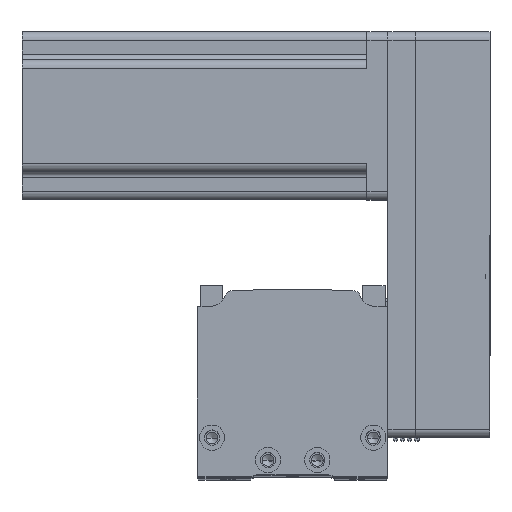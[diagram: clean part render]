
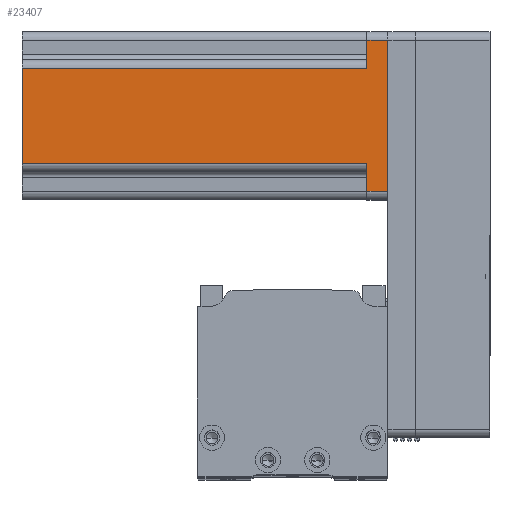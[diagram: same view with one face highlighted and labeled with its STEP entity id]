
A CAD part, top view. The second image highlights one B-rep face of the part: STEP entity #23407.
In plain terms, the highlighted planar face has unit normal (0, 0, 1) as drawn and (0, -1, 0) by its records, which use the part's own axes.
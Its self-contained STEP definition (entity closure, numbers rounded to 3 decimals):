
#305 = LINE ( 'NONE', #9423, #26192 ) ;
#383 = ORIENTED_EDGE ( 'NONE', *, *, #25056, .T. ) ;
#2378 = VERTEX_POINT ( 'NONE', #4097 ) ;
#2398 = LINE ( 'NONE', #35038, #18643 ) ;
#2446 = CARTESIAN_POINT ( 'NONE',  ( 17., -30., 130.7 ) ) ;
#2460 = DIRECTION ( 'NONE',  ( 0., 0., -1. ) ) ;
#2981 = CARTESIAN_POINT ( 'NONE',  ( 17., -30., 7.5 ) ) ;
#4097 = CARTESIAN_POINT ( 'NONE',  ( 27., -30., 7.5 ) ) ;
#4496 = ORIENTED_EDGE ( 'NONE', *, *, #18347, .F. ) ;
#4709 = CARTESIAN_POINT ( 'NONE',  ( -17., -30., 130.7 ) ) ;
#4828 = EDGE_CURVE ( 'NONE', #17021, #24224, #17422, .T. ) ;
#6178 = LINE ( 'NONE', #16313, #13749 ) ;
#8013 = VECTOR ( 'NONE', #37402, 1000. ) ;
#9201 = ORIENTED_EDGE ( 'NONE', *, *, #15274, .T. ) ;
#9423 = CARTESIAN_POINT ( 'NONE',  ( 27., -30., 130.7 ) ) ;
#9713 = AXIS2_PLACEMENT_3D ( 'NONE', #10328, #33063, #13560 ) ;
#10328 = CARTESIAN_POINT ( 'NONE',  ( 30., -30., 130.7 ) ) ;
#11030 = ORIENTED_EDGE ( 'NONE', *, *, #4828, .T. ) ;
#11082 = VECTOR ( 'NONE', #33494, 1000. ) ;
#13443 = ORIENTED_EDGE ( 'NONE', *, *, #21573, .T. ) ;
#13560 = DIRECTION ( 'NONE',  ( -1., 0., 0. ) ) ;
#13749 = VECTOR ( 'NONE', #22897, 1000. ) ;
#14016 = CARTESIAN_POINT ( 'NONE',  ( -20., -30., 7.5 ) ) ;
#15274 = EDGE_CURVE ( 'NONE', #26957, #2378, #305, .T. ) ;
#15473 = DIRECTION ( 'NONE',  ( 0., 0., 1. ) ) ;
#16313 = CARTESIAN_POINT ( 'NONE',  ( 30., -30., 130.7 ) ) ;
#16453 = CARTESIAN_POINT ( 'NONE',  ( -17., -30., 7.5 ) ) ;
#17021 = VERTEX_POINT ( 'NONE', #2981 ) ;
#17422 = LINE ( 'NONE', #2446, #32722 ) ;
#18347 = EDGE_CURVE ( 'NONE', #30517, #24224, #6178, .T. ) ;
#18643 = VECTOR ( 'NONE', #2460, 1000. ) ;
#18755 = CARTESIAN_POINT ( 'NONE',  ( -17., -30., 130.7 ) ) ;
#21573 = EDGE_CURVE ( 'NONE', #30517, #39644, #27723, .T. ) ;
#22897 = DIRECTION ( 'NONE',  ( 1., 0., 0. ) ) ;
#23145 = VERTEX_POINT ( 'NONE', #24973 ) ;
#23407 = ADVANCED_FACE ( 'NONE', ( #24587 ), #29661, .F. ) ;
#24224 = VERTEX_POINT ( 'NONE', #36165 ) ;
#24587 = FACE_OUTER_BOUND ( 'NONE', #25153, .T. ) ;
#24973 = CARTESIAN_POINT ( 'NONE',  ( -27., -30., 0. ) ) ;
#25056 = EDGE_CURVE ( 'NONE', #23145, #26957, #41596, .T. ) ;
#25153 = EDGE_LOOP ( 'NONE', ( #4496, #13443, #26700, #26052, #383, #9201, #35395, #11030 ) ) ;
#25195 = DIRECTION ( 'NONE',  ( 0., 0., -1. ) ) ;
#26052 = ORIENTED_EDGE ( 'NONE', *, *, #29195, .T. ) ;
#26192 = VECTOR ( 'NONE', #41850, 1000. ) ;
#26700 = ORIENTED_EDGE ( 'NONE', *, *, #32816, .F. ) ;
#26957 = VERTEX_POINT ( 'NONE', #28158 ) ;
#27284 = VERTEX_POINT ( 'NONE', #36534 ) ;
#27723 = LINE ( 'NONE', #18755, #37459 ) ;
#28158 = CARTESIAN_POINT ( 'NONE',  ( 27., -30., 0. ) ) ;
#28890 = VECTOR ( 'NONE', #33532, 1000. ) ;
#28953 = EDGE_CURVE ( 'NONE', #2378, #17021, #37049, .T. ) ;
#29195 = EDGE_CURVE ( 'NONE', #27284, #23145, #2398, .T. ) ;
#29661 = PLANE ( 'NONE',  #9713 ) ;
#29943 = LINE ( 'NONE', #14016, #28890 ) ;
#30088 = CARTESIAN_POINT ( 'NONE',  ( 20., -30., 7.5 ) ) ;
#30517 = VERTEX_POINT ( 'NONE', #4709 ) ;
#32722 = VECTOR ( 'NONE', #15473, 1000. ) ;
#32816 = EDGE_CURVE ( 'NONE', #27284, #39644, #29943, .T. ) ;
#33063 = DIRECTION ( 'NONE',  ( 0., 1., 0. ) ) ;
#33494 = DIRECTION ( 'NONE',  ( -1., 0., 0. ) ) ;
#33532 = DIRECTION ( 'NONE',  ( 1., 0., 0. ) ) ;
#35038 = CARTESIAN_POINT ( 'NONE',  ( -27., -30., 130.7 ) ) ;
#35395 = ORIENTED_EDGE ( 'NONE', *, *, #28953, .T. ) ;
#36165 = CARTESIAN_POINT ( 'NONE',  ( 17., -30., 130.7 ) ) ;
#36534 = CARTESIAN_POINT ( 'NONE',  ( -27., -30., 7.5 ) ) ;
#37049 = LINE ( 'NONE', #30088, #11082 ) ;
#37402 = DIRECTION ( 'NONE',  ( 1., 0., 0. ) ) ;
#37459 = VECTOR ( 'NONE', #25195, 1000. ) ;
#39644 = VERTEX_POINT ( 'NONE', #16453 ) ;
#40662 = CARTESIAN_POINT ( 'NONE',  ( 30., -30., 0. ) ) ;
#41596 = LINE ( 'NONE', #40662, #8013 ) ;
#41850 = DIRECTION ( 'NONE',  ( 0., 0., 1. ) ) ;
